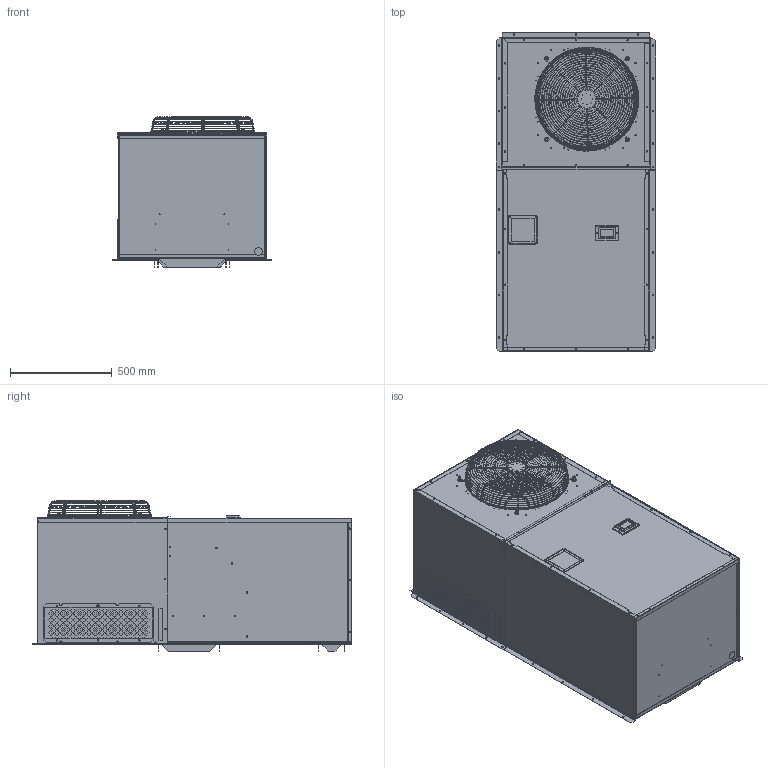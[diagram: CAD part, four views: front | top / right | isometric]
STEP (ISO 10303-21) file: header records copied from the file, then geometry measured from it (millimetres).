
FILE_DESCRIPTION (( 'STEP AP214' ), '1' );
FILE_NAME ('MAA1036A++++A++1+3C++C1+++++++, SHELL.STEP', '2024-07-11T13:05:52', ( '' ), ( '' ), 'SwSTEP 2.0', 'SolidWorks 2022', '' );
FILE_SCHEMA (( 'AUTOMOTIVE_DESIGN' ));
Length unit declared in the file: inch
Products named in the file (25): SMS13013X; MAA1036A++++A++1+3C++C1+++++++, SHELL; SMS23012X; SMS23009X; PORON GASKET SMS23009X^SMS23009X; 02141; SMS10003X_SMM10027X-IN; SMS12005X-IN; 93435; 7219K300_WEATHERPROOF OUTLET ACCESSORY-body_7219K3; SMS13012X; SMS13011X; SMS13014X; SMS23012X-IN; 93097_1001009; BLOCK, DOM DWG^MAA1018-C1; SMS23010X; SMS10003X; SMS22005X; 7219K300_WEATHERPROOF OUTLET ACCESSORY - door_7219K3; SMS13014X-IN; 1018 FAN ASSY FINAL UNIT; SMS12005X_INSTALLED
Assembly tree (28 placements, depth 3):
  MAA1036A++++A++1+3C++C1+++++++, SHELL
    SMS10003X_SMM10027X-IN
      SMS10003X
    SMS12005X-IN
      SMS12005X_INSTALLED
    SMS13014X-IN
      SMS13014X
    SMS13013X
      SMS13013X
    SMS13011X  x2
    SMS22005X
    SMS13012X
    SMS23012X-IN
      SMS23012X
    SMS23009X
      SMS23009X
      PORON GASKET SMS23009X^SMS23009X
    1018 FAN ASSY FINAL UNIT
      SMS23010X
    02141
      7219K300_WEATHERPROOF OUTLET ACCESSORY-body_7219K3
      7219K300_WEATHERPROOF OUTLET ACCESSORY - door_7219K3
    93435  x4
    93097_1001009
    BLOCK, DOM DWG^MAA1018-C1
Bounding box: 782.19 x 1568.58 x 739.02 mm (x, y, z)
Volume: 660238760.9 mm3; surface area: 15590996.6 mm2
Topology: 26 solids, 26 shells, 3257 faces, 9412 edges, 5994 vertices
Faces by surface type: plane 1793, cylinder 1112, bspline 180, torus 156, sphere 12, cone 4
Entity records: 114669 total; most frequent: CARTESIAN_POINT 43084, ORIENTED_EDGE 15152, DIRECTION 13756, EDGE_CURVE 7576, VERTEX_POINT 4774, AXIS2_PLACEMENT_3D 4759, LINE 4238, VECTOR 4238
